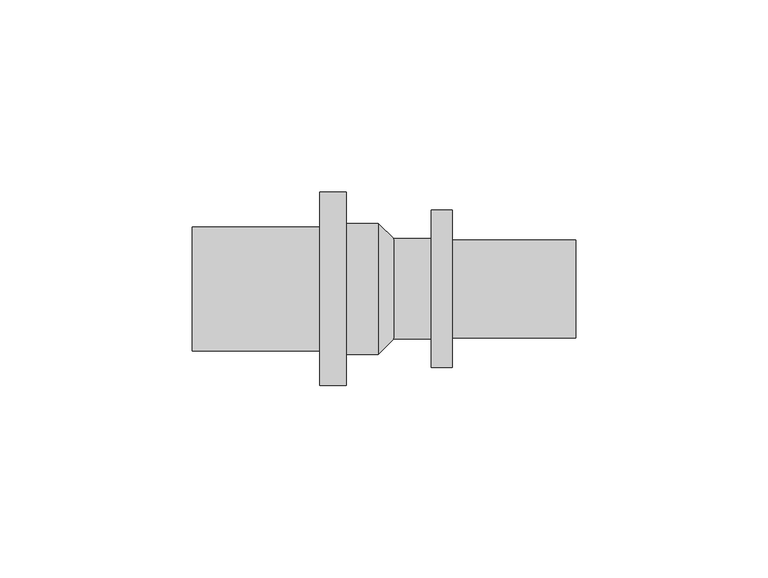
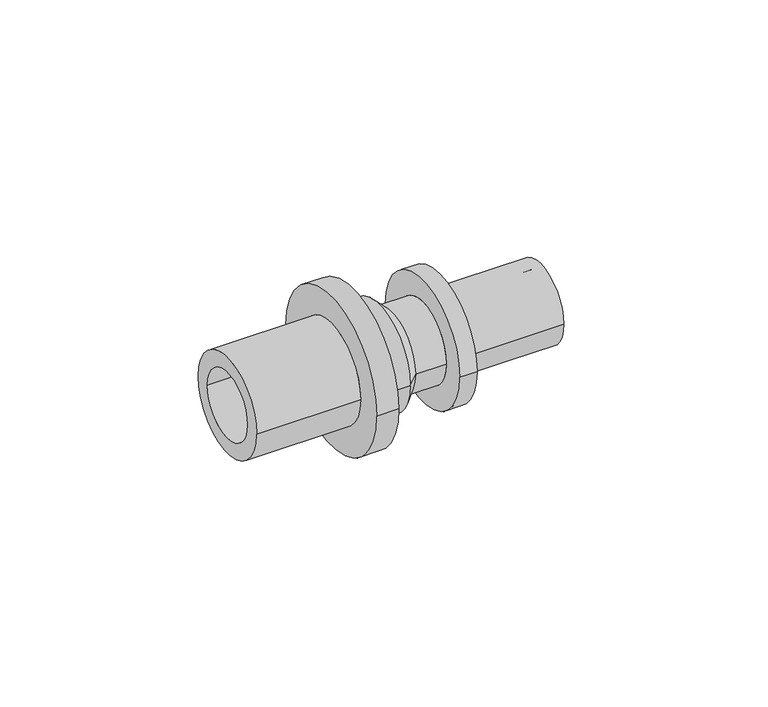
"""IFC4 building model written with IfcOpenShell, lengths in millimetres: pipe fitting geometry, RAUTITAN_Transition_PX : RTI PX Tr DE."""

from ifc_helpers import new_model, si_unit, frame, origin, place, context, project, spatial, polyline, circle_curve, source, transform, mapped, element, save
from ifc_brep_helpers import plane_surface, cylinder_surface, revolved_surface, advanced_brep


def pipe_fitting_37bbe906(model_context):
    return source(origin(), model_context, "Body", "AdvancedBrep", [
        advanced_brep(
        [(-50.25, 11.0, 0.0), (-50.25, -11.0, 0.0), (-0.975, -11.0, 0.0), (-0.975, 11.0, 0.0), (-1.975, 17.0, 0.0), (-1.975, -17.0, 0.0), (-10.25, -17.0, 0.0), (-10.25, 17.0, 0.0), (1.975, 13.05, 0.0), (1.975, -13.05, 0.0), (11.75, 13.05, 0.0), (11.75, -13.05, 0.0), (17.25, 20.45, 0.0), (17.25, -20.45, 0.0), (11.75, -20.45, 0.0), (11.75, 20.45, 0.0), (49.25, 12.75, 0.0), (49.25, -12.75, 0.0), (17.25, -12.75, 0.0), (17.25, 12.75, 0.0), (0.975, 9.05, 0.0), (0.975, -9.05, 0.0), (49.25, -9.05, 0.0), (49.25, 9.05, 0.0), (-10.25, 25.1, 0.0), (-10.25, -25.1, 0.0), (-17.25, 16.1, 0.0), (-17.25, -16.1, 0.0), (-50.25, -16.1, 0.0), (-50.25, 16.1, 0.0), (-17.25, -25.1, 0.0), (-17.25, 25.1, 0.0)],
        [
            (0, 1, circle_curve(frame((-50.25, 0.0, 0.0), z_axis=(-1.0, 0.0, 0.0), x_axis=(0.0, -1.0, 0.0)), 11.0)),
            (1, 2),
            (2, 3, circle_curve(frame((-0.975, 0.0, 0.0), z_axis=(1.0, 0.0, 0.0), x_axis=(0.0, -1.0, 0.0)), 11.0)),
            (3, 0),
            (4, 5, circle_curve(frame((-1.975, 0.0, 0.0), z_axis=(-1.0, 0.0, 0.0), x_axis=(0.0, -1.0, 0.0)), 17.0)),
            (5, 6),
            (6, 7, circle_curve(frame((-10.25, 0.0, 0.0), z_axis=(1.0, 0.0, 0.0), x_axis=(0.0, -1.0, 0.0)), 17.0)),
            (7, 4),
            (8, 9, circle_curve(frame((1.975, 0.0, 0.0), z_axis=(-1.0, 0.0, 0.0), x_axis=(0.0, -1.0, 0.0)), 13.05)),
            (9, 5),
            (4, 8),
            (10, 11, circle_curve(frame((11.75, 0.0, 0.0), z_axis=(-1.0, 0.0, 0.0), x_axis=(0.0, -1.0, 0.0)), 13.05)),
            (11, 9),
            (8, 10),
            (12, 13, circle_curve(frame((17.25, 0.0, 0.0), z_axis=(-1.0, 0.0, 0.0), x_axis=(0.0, -1.0, 0.0)), 20.45)),
            (13, 14),
            (14, 15, circle_curve(frame((11.75, 0.0, 0.0), z_axis=(1.0, 0.0, 0.0), x_axis=(0.0, -1.0, 0.0)), 20.45)),
            (15, 12),
            (16, 17, circle_curve(frame((49.25, 0.0, 0.0), z_axis=(-1.0, 0.0, 0.0), x_axis=(0.0, -1.0, 0.0)), 12.75)),
            (17, 18),
            (18, 19, circle_curve(frame((17.25, 0.0, 0.0), z_axis=(1.0, 0.0, 0.0), x_axis=(0.0, -1.0, 0.0)), 12.75)),
            (19, 16),
            (20, 21, circle_curve(frame((0.975, 0.0, 0.0), z_axis=(-1.0, 0.0, 0.0), x_axis=(0.0, -1.0, 0.0)), 9.05)),
            (21, 22),
            (22, 23, circle_curve(frame((49.25, 0.0, 0.0), z_axis=(1.0, 0.0, 0.0), x_axis=(0.0, -1.0, 0.0)), 9.05)),
            (23, 20),
            (2, 21),
            (20, 3),
            (1, 0, circle_curve(frame((-50.25, 0.0, 0.0), z_axis=(-1.0, 0.0, 0.0), x_axis=(0.0, 1.0, 0.0)), 11.0)),
            (3, 2, circle_curve(frame((-0.975, 0.0, 0.0), z_axis=(1.0, 0.0, 0.0), x_axis=(0.0, 1.0, 0.0)), 11.0)),
            (24, 25, circle_curve(frame((-10.25, 0.0, 0.0), z_axis=(1.0, 0.0, 0.0), x_axis=(0.0, 1.0, 0.0)), 25.1)),
            (25, 24, circle_curve(frame((-10.25, 0.0, 0.0), z_axis=(1.0, 0.0, 0.0), x_axis=(0.0, -1.0, 0.0)), 25.1)),
            (6, 7, circle_curve(frame((-10.25, 0.0, 0.0), z_axis=(-1.0, 0.0, 0.0), x_axis=(0.0, 1.0, 0.0)), 17.0)),
            (5, 4, circle_curve(frame((-1.975, 0.0, 0.0), z_axis=(-1.0, 0.0, 0.0), x_axis=(0.0, 1.0, 0.0)), 17.0)),
            (9, 8, circle_curve(frame((1.975, 0.0, 0.0), z_axis=(-1.0, 0.0, 0.0), x_axis=(0.0, 1.0, 0.0)), 13.05)),
            (11, 10, circle_curve(frame((11.75, 0.0, 0.0), z_axis=(-1.0, 0.0, 0.0), x_axis=(0.0, 1.0, 0.0)), 13.05)),
            (14, 15, circle_curve(frame((11.75, 0.0, 0.0), z_axis=(-1.0, 0.0, 0.0), x_axis=(0.0, 1.0, 0.0)), 20.45)),
            (13, 12, circle_curve(frame((17.25, 0.0, 0.0), z_axis=(-1.0, 0.0, 0.0), x_axis=(0.0, 1.0, 0.0)), 20.45)),
            (18, 19, circle_curve(frame((17.25, 0.0, 0.0), z_axis=(-1.0, 0.0, 0.0), x_axis=(0.0, 1.0, 0.0)), 12.75)),
            (17, 16, circle_curve(frame((49.25, 0.0, 0.0), z_axis=(-1.0, 0.0, 0.0), x_axis=(0.0, 1.0, 0.0)), 12.75)),
            (22, 23, circle_curve(frame((49.25, 0.0, 0.0), z_axis=(-1.0, 0.0, 0.0), x_axis=(0.0, 1.0, 0.0)), 9.05)),
            (21, 20, circle_curve(frame((0.975, 0.0, 0.0), z_axis=(-1.0, 0.0, 0.0), x_axis=(0.0, 1.0, 0.0)), 9.05)),
            (26, 27, circle_curve(frame((-17.25, 0.0, 0.0), z_axis=(-1.0, 0.0, 0.0), x_axis=(0.0, -1.0, 0.0)), 16.1)),
            (27, 28),
            (28, 29, circle_curve(frame((-50.25, 0.0, 0.0), z_axis=(1.0, 0.0, 0.0), x_axis=(0.0, -1.0, 0.0)), 16.1)),
            (29, 26),
            (25, 30),
            (30, 31, circle_curve(frame((-17.25, 0.0, 0.0), z_axis=(1.0, 0.0, 0.0), x_axis=(0.0, -1.0, 0.0)), 25.1)),
            (31, 24),
            (28, 29, circle_curve(frame((-50.25, 0.0, 0.0), z_axis=(-1.0, 0.0, 0.0), x_axis=(0.0, 1.0, 0.0)), 16.1)),
            (27, 26, circle_curve(frame((-17.25, 0.0, 0.0), z_axis=(-1.0, 0.0, 0.0), x_axis=(0.0, 1.0, 0.0)), 16.1)),
            (30, 31, circle_curve(frame((-17.25, 0.0, 0.0), z_axis=(-1.0, 0.0, 0.0), x_axis=(0.0, 1.0, 0.0)), 25.1)),
        ],
        [
            revolved_surface(polyline([(-0.975, -11.0, 0.0), (-50.25, -11.0, 0.0)]), (0.0, 0.0, 0.0), (1.0, 0.0, 0.0)),
            cylinder_surface(frame((0.0, 0.0, 0.0), z_axis=(1.0, 0.0, 0.0), x_axis=(0.0, -1.0, 0.0)), 17.0),
            revolved_surface(polyline([(-1.975, -17.0, 0.0), (1.975, -13.05, 0.0)]), (0.0, 0.0, 0.0), (1.0, 0.0, 0.0)),
            cylinder_surface(frame((0.0, 0.0, 0.0), z_axis=(1.0, 0.0, 0.0), x_axis=(0.0, -1.0, 0.0)), 13.05),
            cylinder_surface(frame((0.0, 0.0, 0.0), z_axis=(1.0, 0.0, 0.0), x_axis=(0.0, -1.0, 0.0)), 20.45),
            cylinder_surface(frame((0.0, 0.0, 0.0), z_axis=(1.0, 0.0, 0.0), x_axis=(0.0, -1.0, 0.0)), 12.75),
            revolved_surface(polyline([(49.25, -9.05, 0.0), (0.975, -9.05, 0.0)]), (0.0, 0.0, 0.0), (1.0, 0.0, 0.0)),
            revolved_surface(polyline([(0.975, -9.05, 0.0), (-0.975, -11.0, 0.0)]), (0.0, 0.0, 0.0), (1.0, 0.0, 0.0)),
            revolved_surface(polyline([(-0.975, 11.0, 0.0), (-50.25, 11.0, 0.0)]), (0.0, 0.0, 0.0), (1.0, 0.0, 0.0)),
            plane_surface(frame((-10.25, 0.0, 0.0), z_axis=(1.0, 0.0, 0.0), x_axis=(0.0, 1.0, 0.0))),
            cylinder_surface(frame((0.0, 0.0, 0.0), z_axis=(1.0, 0.0, 0.0), x_axis=(0.0, 1.0, 0.0)), 17.0),
            revolved_surface(polyline([(-1.975, 17.0, 0.0), (1.975, 13.05, 0.0)]), (0.0, 0.0, 0.0), (1.0, 0.0, 0.0)),
            cylinder_surface(frame((0.0, 0.0, 0.0), z_axis=(1.0, 0.0, 0.0), x_axis=(0.0, 1.0, 0.0)), 13.05),
            plane_surface(frame((11.75, 0.0, 0.0), z_axis=(-1.0, 0.0, 0.0), x_axis=(0.0, 1.0, 0.0))),
            cylinder_surface(frame((0.0, 0.0, 0.0), z_axis=(1.0, 0.0, 0.0), x_axis=(0.0, 1.0, 0.0)), 20.45),
            plane_surface(frame((17.25, 0.0, 0.0), z_axis=(1.0, 0.0, 0.0), x_axis=(0.0, 1.0, 0.0))),
            cylinder_surface(frame((0.0, 0.0, 0.0), z_axis=(1.0, 0.0, 0.0), x_axis=(0.0, 1.0, 0.0)), 12.75),
            plane_surface(frame((49.25, 0.0, 0.0), z_axis=(1.0, 0.0, 0.0), x_axis=(0.0, 1.0, 0.0))),
            revolved_surface(polyline([(49.25, 9.05, 0.0), (0.975, 9.05, 0.0)]), (0.0, 0.0, 0.0), (1.0, 0.0, 0.0)),
            revolved_surface(polyline([(0.975, 9.05, 0.0), (-0.975, 11.0, 0.0)]), (0.0, 0.0, 0.0), (1.0, 0.0, 0.0)),
            cylinder_surface(frame((0.0, 0.0, 0.0), z_axis=(1.0, 0.0, 0.0), x_axis=(0.0, -1.0, 0.0)), 16.1),
            cylinder_surface(frame((0.0, 0.0, 0.0), z_axis=(1.0, 0.0, 0.0), x_axis=(0.0, -1.0, 0.0)), 25.1),
            plane_surface(frame((-50.25, 0.0, 0.0), z_axis=(-1.0, 0.0, 0.0), x_axis=(0.0, 1.0, 0.0))),
            cylinder_surface(frame((0.0, 0.0, 0.0), z_axis=(1.0, 0.0, 0.0), x_axis=(0.0, 1.0, 0.0)), 16.1),
            plane_surface(frame((-17.25, 0.0, 0.0), z_axis=(-1.0, 0.0, 0.0), x_axis=(0.0, 1.0, 0.0))),
            cylinder_surface(frame((0.0, 0.0, 0.0), z_axis=(1.0, 0.0, 0.0), x_axis=(0.0, 1.0, 0.0)), 25.1),
        ],
        [
            (0, [[1, 2, 3, 4]]),
            (1, [[5, 6, 7, 8]]),
            (2, [[9, 10, -5, 11]]),
            (3, [[12, 13, -9, 14]]),
            (4, [[15, 16, 17, 18]]),
            (5, [[19, 20, 21, 22]]),
            (6, [[23, 24, 25, 26]]),
            (7, [[-3, 27, -23, 28]]),
            (8, [[29, -4, 30, -2]]),
            (9, [[31, 32], [33, -7]]),
            (10, [[34, -8, -33, -6]]),
            (11, [[35, -11, -34, -10]]),
            (12, [[36, -14, -35, -13]]),
            (13, [[37, -17], [-36, -12]]),
            (14, [[38, -18, -37, -16]]),
            (15, [[-38, -15], [39, -21]]),
            (16, [[40, -22, -39, -20]]),
            (17, [[-40, -19], [41, -25]]),
            (18, [[42, -26, -41, -24]]),
            (19, [[-30, -28, -42, -27]]),
            (20, [[43, 44, 45, 46]]),
            (21, [[-32, 47, 48, 49]]),
            (22, [[50, -45], [-29, -1]]),
            (23, [[51, -46, -50, -44]]),
            (24, [[52, -48], [-51, -43]]),
            (25, [[-31, -49, -52, -47]]),
        ],
    ),
    ])


if __name__ == "__main__":
    model = new_model("IFC4")
    model_context = context("Model", 3, world=origin())
    ifc_project = project(units=[si_unit("LENGTHUNIT", "METRE", prefix="MILLI")], contexts=[model_context])
    site = spatial("IfcSite", under=ifc_project)
    building = spatial("IfcBuilding", under=site)
    placement = place(None, origin())
    pipe_fitting_shape = pipe_fitting_37bbe906(model_context)
    element("IfcPipeFitting", 1, ObjectType="RAUTITAN_Transition_PX : RTI PX Tr DE", at=placement, inside=building, context=model_context, shape_type="MappedRepresentation", body=[
        mapped(pipe_fitting_shape, transform((0.0, 0.0, 0.0), x_axis=(1.0, 0.0, 0.0), y_axis=(0.0, 1.0, 0.0), z_axis=(0.0, 0.0, 1.0))),
    ])
    save(model, "model.ifc")
